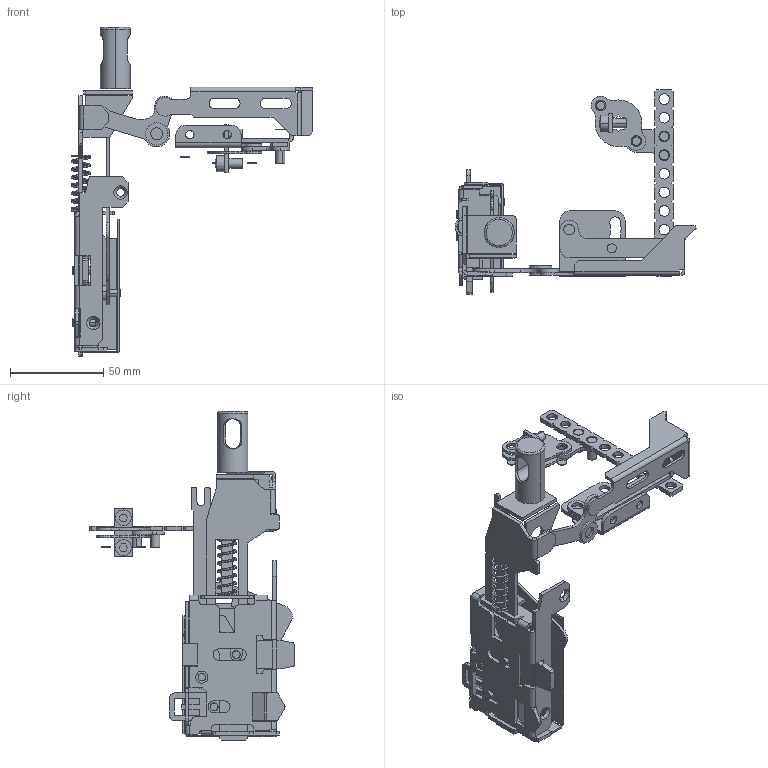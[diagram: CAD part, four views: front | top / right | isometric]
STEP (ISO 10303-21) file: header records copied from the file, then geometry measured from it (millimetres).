
FILE_DESCRIPTION(('CAx-IF Rec.Pracs.---Model Styling and Organization---1.2---2011-12-15','CAx-IF Rec.Pracs.---Geometric and Assembly Validation Properties---4.1---2014-06-16','CAx-IF Rec.Pracs.---PMI Polyline Presentation---2.0---2013-05-24'),'2;1');
FILE_NAME('R5M2WFBM2.stp','2021-05-05T12:54:38+03:00',(''),(''),'STEP Interface 4.4 by CT CoreTechnologie','3D_Evolution4.4 by CT CoreTechnologie','');
FILE_SCHEMA(('AUTOMOTIVE_DESIGN { 1 0 10303 214 1 1 1 1 }'));
Length unit declared in the file: millimetre
Products named in the file (29): R5M2WFBM2; RB.1500.00.00.0 ÑÁ_-00 (ëª«); M4x16 GOST 17473-80 (DIN 7985)_stright; M4x25 GOST 17473-80 (DIN 7985)_stright; Ì4-GOST R 50273-92 (DIN 985)_stright DIN EN ISO 10511 - M4 - N; 4 GOST 11371-78 (DIN 125)_ ©¡  4  11371-78 (DIN 125); RB.1500.00.07.0; RB.1500.00.08.0; RB.1500.00.05.0; M6-DIN 985 (ISO 10511) (CM250600)_stright; RB.1500.00.03.0; RB.1500.00.02.0; RB.1500.00.04.0_-00; RB.1500.00.10.0_In prestressed condition - 30 mm; RB.1500.00.06.0; 6-GOST 11371-78 (DIN 125) PA 6.6_6-GOST 11371-78 (DIN 125) PA 6.6; RB.1497.00.00.0 ÑÁ_-01; RB.1497.00.03.0_-01; M5x10-GOST 11738-84 (DIN 912)_stright; RB.1497.00.04.0_-00; RB.1497.00.02.0; RB.1497.00.01.0_-00; M5x8-DIN7500C_stright; RB.1419.00.02.0_-01; RB.1419.00.02.0_-02; RB.1497.00.06.0_-00; RB.1514.00.00.0_-00; RB.1505.00.04.0_-00; RB.1505.00.05.0_-00
Assembly tree (40 placements, depth 3):
  R5M2WFBM2
    RB.1500.00.00.0 ÑÁ_-00 (ëª«)
      M4x16 GOST 17473-80 (DIN 7985)_stright  x2
      M4x25 GOST 17473-80 (DIN 7985)_stright
      Ì4-GOST R 50273-92 (DIN 985)_stright DIN EN ISO 10511 - M4 - N  x3
      4 GOST 11371-78 (DIN 125)_ ©¡  4  11371-78 (DIN 125)  x2
      RB.1500.00.07.0
      RB.1500.00.08.0
      RB.1500.00.05.0
      M6-DIN 985 (ISO 10511) (CM250600)_stright
      RB.1500.00.03.0
      RB.1500.00.02.0
      RB.1500.00.04.0_-00
      RB.1500.00.10.0_In prestressed condition - 30 mm
      RB.1500.00.06.0
    6-GOST 11371-78 (DIN 125) PA 6.6_6-GOST 11371-78 (DIN 125) PA 6.6  x2
    RB.1497.00.00.0 ÑÁ_-01
      RB.1497.00.03.0_-01
      M5x10-GOST 11738-84 (DIN 912)_stright  x2
      RB.1497.00.04.0_-00
      Ì4-GOST R 50273-92 (DIN 985)_stright DIN EN ISO 10511 - M4 - N  x5
      RB.1497.00.02.0
      RB.1497.00.01.0_-00
      M5x8-DIN7500C_stright  x2
      RB.1419.00.02.0_-01
      RB.1419.00.02.0_-02
      RB.1497.00.06.0_-00
    RB.1514.00.00.0_-00
    RB.1505.00.04.0_-00
    RB.1505.00.05.0_-00
Bounding box: 129.61 x 109.5 x 176.6 mm (x, y, z)
Surface area: 65744.3 mm2 (no closed solid volume)
Topology: 0 solids, 49 shells, 971 faces, 2627 edges, 1683 vertices
Faces by surface type: plane 582, cylinder 338, bspline 51
Full cylindrical faces by diameter (mm): 3.2 x2
Entity records: 35179 total; most frequent: CARTESIAN_POINT 10096, ORIENTED_EDGE 4966, DIRECTION 4862, EDGE_CURVE 2503, VECTOR 1788, LINE 1788, VERTEX_POINT 1611, AXIS2_PLACEMENT_3D 1537
